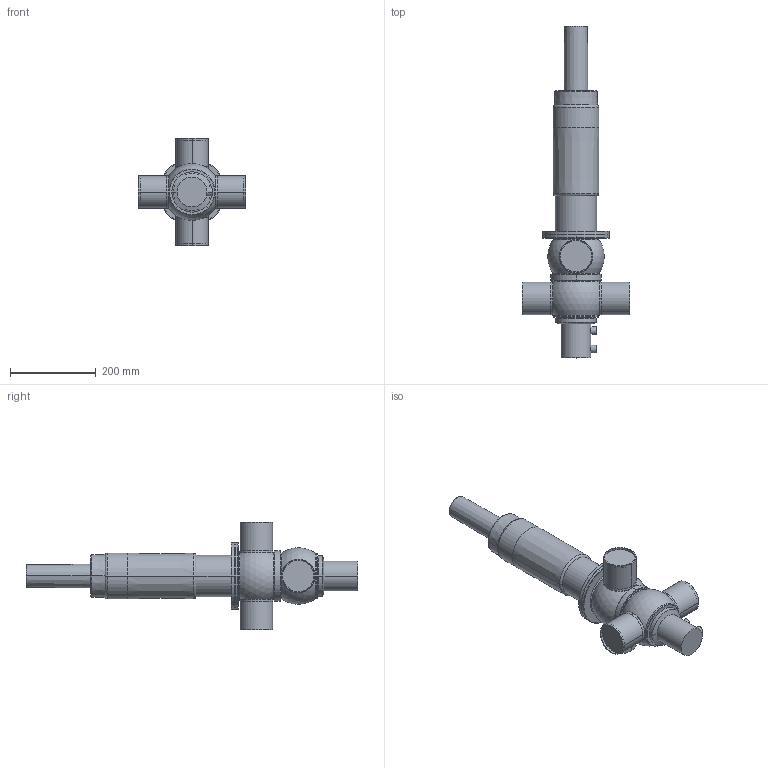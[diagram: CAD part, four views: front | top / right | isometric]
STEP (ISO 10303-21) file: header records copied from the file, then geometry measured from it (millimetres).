
FILE_DESCRIPTION(('Creo Elements/Direct Modeling STEP Export'),'2;1');
FILE_NAME('D44SL-3T_prox..stp','2019-09-04T 8:56:10',(''),(''),'PTC Creo Elements/Direct Modeling STEP processor for AP214 (Solid Model)','PTC Creo Elements/Direct Modeling 19.0B 21-Mar-2015 (C) Parametric Technology GmbH','');
FILE_SCHEMA(('AUTOMOTIVE_DESIGN { 1 0 10303 214 1 1 1 1 }'));
Length unit declared in the file: millimetre
Products named in the file (5): D4_Prox._holder.; actuator_D4SL-100_yoke; drain_pipe-62; housing_D44-3T; D44SL-3T_prox.
Assembly tree (4 placements, depth 2):
  D44SL-3T_prox.
    housing_D44-3T
    drain_pipe-62
    actuator_D4SL-100_yoke
    D4_Prox._holder.
Bounding box: 250 x 775.15 x 250 mm (x, y, z)
Volume: 7180471 mm3; surface area: 424723.4 mm2
Topology: 4 solids, 4 shells, 136 faces, 287 edges, 173 vertices
Faces by surface type: cylinder 50, torus 40, plane 28, cone 14, sphere 4
Entity records: 4282 total; most frequent: CARTESIAN_POINT 1449, DIRECTION 582, ORIENTED_EDGE 574, EDGE_CURVE 287, AXIS2_PLACEMENT_3D 259, VERTEX_POINT 173, EDGE_LOOP 150, FACE_OUTER_BOUND 136
